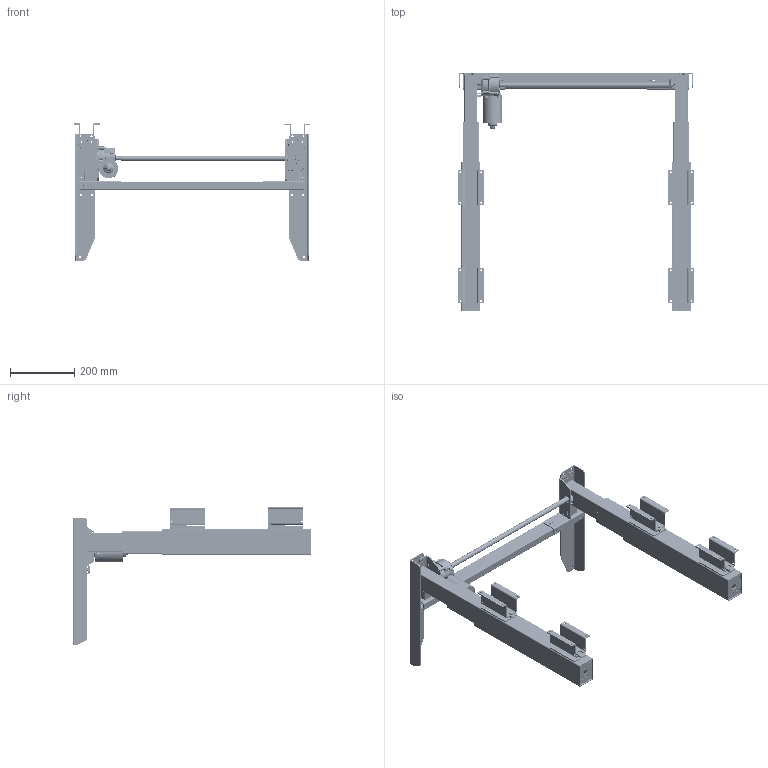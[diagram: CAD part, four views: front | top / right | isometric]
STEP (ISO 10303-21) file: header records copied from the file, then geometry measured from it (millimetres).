
FILE_DESCRIPTION (( 'STEP AP214' ), '1' );
FILE_NAME ('Tech-draw_501-39_XX072.STEP', '2024-09-11T10:43:51', ( '' ), ( '' ), 'SwSTEP 2.0', 'SolidWorks 2023', '' );
FILE_SCHEMA (( 'AUTOMOTIVE_DESIGN' ));
Length unit declared in the file: millimetre
Products named in the file (106): 346330_White; 361530; 332850; 161150_Shell view; 160590_Shell view; 328870; 142920_Shell view; 331120; 134750; 341220; 342990; 134800; 346200; 306980; 341810; 325430; 321190; 321140.; 333180; 347910_72; 361540; 127360; 333420; 342310_silver; 346640; 321840; 346210_White; 142850_shell view; 331030; 343000; 346340; 144260_72; 135010; 343010; 341060; 336230.; 322990; 347920_72; 141340; 341000_lower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
Assembly tree (306 placements, depth 7):
  Tech-draw_501-39_XX072
    347910_72
    144260_72
      347920_72
      340560
      341220
    161150_Shell view
      361530
      361570  x2
      160630  x2
        361550
        361560
      160590_Shell view
        342310  x8
        341800  x10
        341800_silver  x6
        346910
        356120
        160560
          361520
          356850
        160580
          356130
          346640
          346330_White
          346200  x2
          346190_White
          345000
        142910_shell view
          346140
          600470
          320130
          142920_Shell view
            142800_rubber direction a
              321180
              321140.
            321190
            321840
            335380
            134750
              336230.
              340430
            321260  x2
            135010
              339870
            346890
            335900_Assembly  x3
            341330
          321150
          301890
          315360_Ingen kontaktarm
          325430
          311580  x3
          333420  x2
          321840
          142850_shell view
            346830
            346840
          346790  x2
          346800
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Bounding box: 733.9 x 742.65 x 426.4 mm (x, y, z)
Volume: 2453613.7 mm3; surface area: 2512844.7 mm2
Topology: 288 solids, 288 shells, 13237 faces, 34662 edges, 22759 vertices
Faces by surface type: plane 6443, cylinder 4726, bspline 1321, cone 388, torus 316, sphere 43
Full cylindrical faces by diameter (mm): 1.2 x2, 1.5 x1, 1.8 x1, 1.9 x3, 2 x12, 2.2 x1, 2.3 x1, 2.4 x489, 2.5 x4, 2.9 x2, 3 x41, 3.1 x2, 3.2 x2, 3.3 x10, 3.5 x2, 3.6 x1, 4 x28, 4.1 x1, 4.2 x6, 4.3 x1, 4.5 x6, 4.6 x4, 4.95 x122, 4.98 x1, 5 x55, 5.05 x4, 5.2 x1, 5.5 x18, 5.6 x2, 5.7 x1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
Entity records: 316084 total; most frequent: CARTESIAN_POINT 137217, ORIENTED_EDGE 39234, DIRECTION 31821, EDGE_CURVE 19617, VERTEX_POINT 12995, AXIS2_PLACEMENT_3D 11285, LINE 9251, VECTOR 9251
